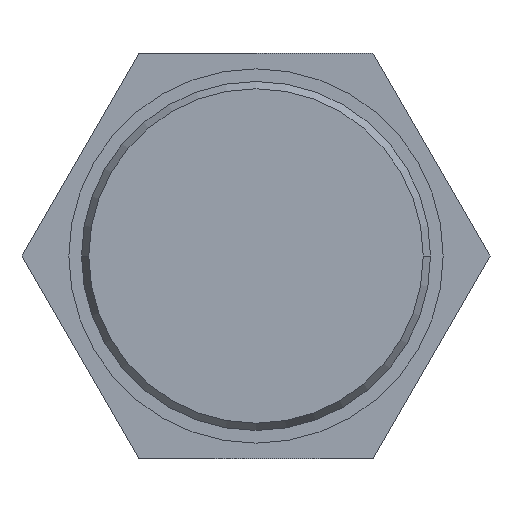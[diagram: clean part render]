
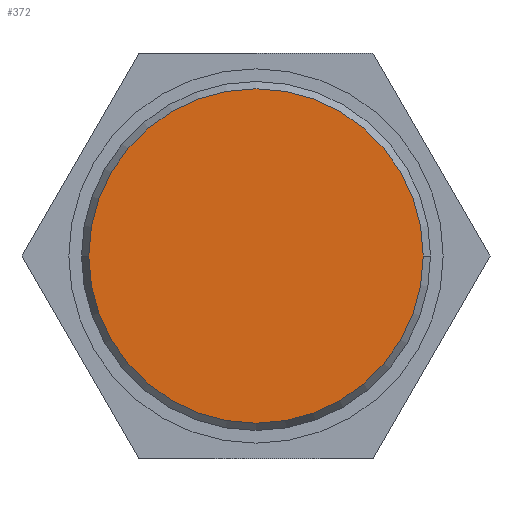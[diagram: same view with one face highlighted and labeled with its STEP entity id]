
A CAD part, left-side view. The second image highlights one B-rep face of the part: STEP entity #372.
In plain terms, the highlighted planar face has unit normal (-1, 0, 0).
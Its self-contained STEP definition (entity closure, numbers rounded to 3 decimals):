
#5 = DIRECTION ( 'NONE',  ( 0., 1., 0. ) ) ;
#6 = CIRCLE ( 'NONE', #512, 13.2 ) ;
#34 = EDGE_LOOP ( 'NONE', ( #480, #154 ) ) ;
#53 = CARTESIAN_POINT ( 'NONE',  ( 0., 13.2, 0. ) ) ;
#78 = DIRECTION ( 'NONE',  ( 1., 0., 0. ) ) ;
#97 = VERTEX_POINT ( 'NONE', #53 ) ;
#102 = DIRECTION ( 'NONE',  ( 0., -1., 0. ) ) ;
#154 = ORIENTED_EDGE ( 'NONE', *, *, #368, .F. ) ;
#171 = DIRECTION ( 'NONE',  ( 0., 1., 0. ) ) ;
#236 = CARTESIAN_POINT ( 'NONE',  ( 0., 0., 0. ) ) ;
#237 = DIRECTION ( 'NONE',  ( -1., 0., 0. ) ) ;
#287 = CARTESIAN_POINT ( 'NONE',  ( 0., -13.2, 0. ) ) ;
#319 = VERTEX_POINT ( 'NONE', #287 ) ;
#368 = EDGE_CURVE ( 'NONE', #319, #97, #6, .T. ) ;
#372 = ADVANCED_FACE ( 'NONE', ( #640 ), #602, .T. ) ;
#480 = ORIENTED_EDGE ( 'NONE', *, *, #569, .F. ) ;
#492 = DIRECTION ( 'NONE',  ( 1., 0., 0. ) ) ;
#512 = AXIS2_PLACEMENT_3D ( 'NONE', #669, #492, #171 ) ;
#569 = EDGE_CURVE ( 'NONE', #97, #319, #607, .T. ) ;
#602 = PLANE ( 'NONE',  #629 ) ;
#607 = CIRCLE ( 'NONE', #614, 13.2 ) ;
#614 = AXIS2_PLACEMENT_3D ( 'NONE', #765, #78, #5 ) ;
#629 = AXIS2_PLACEMENT_3D ( 'NONE', #236, #237, #102 ) ;
#640 = FACE_OUTER_BOUND ( 'NONE', #34, .T. ) ;
#669 = CARTESIAN_POINT ( 'NONE',  ( 0., 0., 0. ) ) ;
#765 = CARTESIAN_POINT ( 'NONE',  ( 0., 0., 0. ) ) ;
